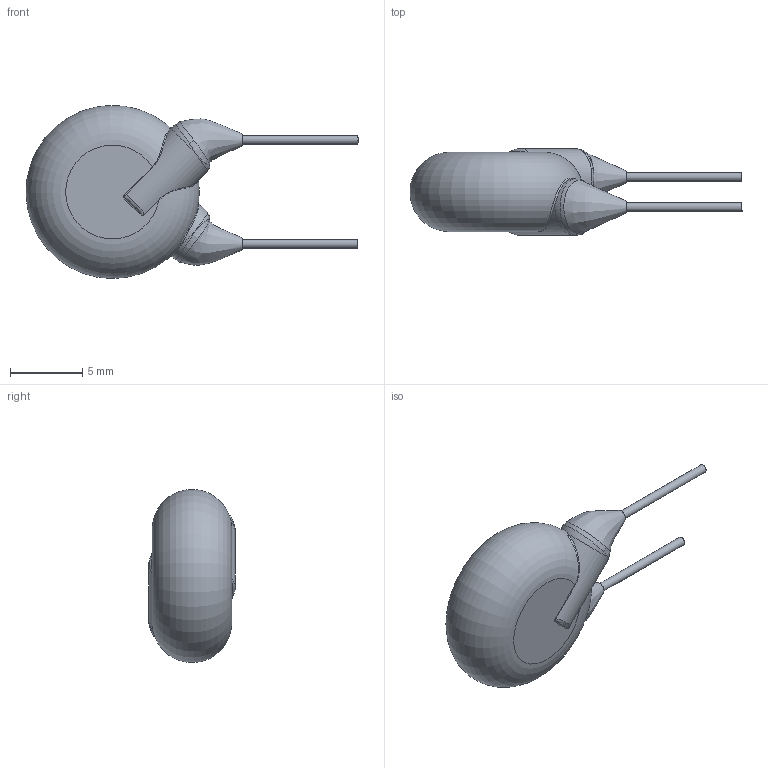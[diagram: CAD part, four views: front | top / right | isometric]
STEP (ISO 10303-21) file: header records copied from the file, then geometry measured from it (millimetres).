
FILE_DESCRIPTION(/* description */ (''),/* implementation_level */ '2;1');
FILE_NAME(/* name */ 'I:\Marketing\M6t1\3D-Models\Zchng-Werk-3\Upload for homepage\Roederstein\VKO\Y5U_300-440\VKO332MCQCD0KR\VKO332MCQCD0KR.stp',/* time_stamp */ '2018-03-15T10:35:32+01:00',/* author */ ('sheinrich'),/* organization */ (''),/* preprocessor_version */ 'ST-DEVELOPER v16.1',/* originating_system */ 'Autodesk Inventor 2016',/* authorisation */ '');
FILE_SCHEMA (('AUTOMOTIVE_DESIGN { 1 0 10303 214 3 1 1 }'));
Length unit declared in the file: centimetre
Products named in the file (1): VKO332MCQCD0KR
Bounding box: 23 x 6 x 11.99 mm (x, y, z)
Volume: 579.5 mm3; surface area: 430.9 mm2
Topology: 1 solids, 1 shells, 39 faces, 92 edges, 53 vertices
Faces by surface type: bspline 22, cylinder 8, plane 6, torus 3
Full cylindrical faces by diameter (mm): 0.6 x2
Entity records: 2642 total; most frequent: CARTESIAN_POINT 1847, ORIENTED_EDGE 168, DIRECTION 104, EDGE_CURVE 84, VERTEX_POINT 52, AXIS2_PLACEMENT_3D 48, B_SPLINE_CURVE_WITH_KNOTS 46, EDGE_LOOP 44
